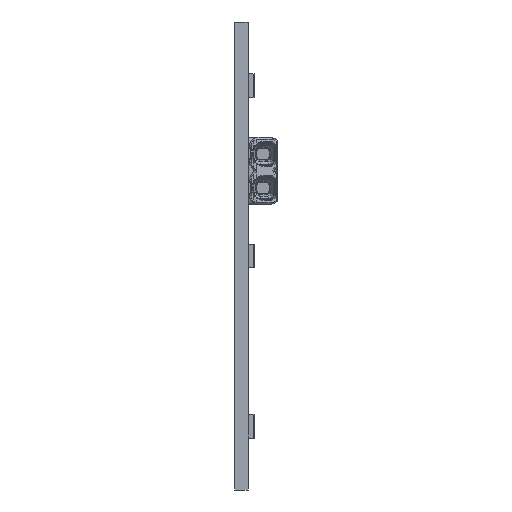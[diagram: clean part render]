
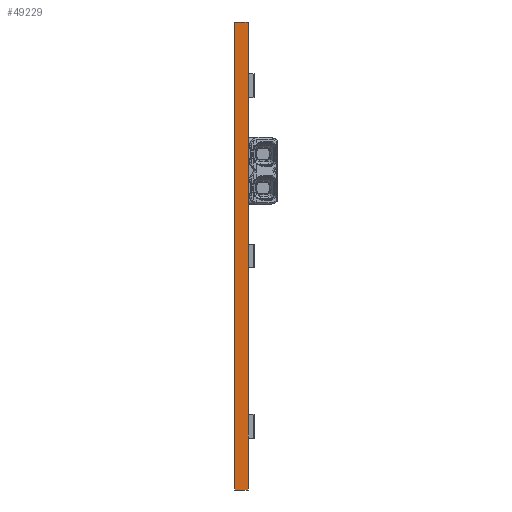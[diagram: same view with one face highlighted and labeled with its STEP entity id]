
A CAD part, left-side view. The second image highlights one B-rep face of the part: STEP entity #49229.
In plain terms, the highlighted planar face has unit normal (-1, 0, 0).
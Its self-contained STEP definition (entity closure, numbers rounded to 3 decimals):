
#2798=ORIENTED_EDGE('',*,*,#12766,.F.);
#2799=ORIENTED_EDGE('',*,*,#13097,.F.);
#2800=ORIENTED_EDGE('',*,*,#13090,.T.);
#2801=ORIENTED_EDGE('',*,*,#13117,.T.);
#12766=EDGE_CURVE('',#18036,#18037,#21414,.T.);
#13090=EDGE_CURVE('',#18296,#18297,#21522,.T.);
#13097=EDGE_CURVE('',#18296,#18036,#21529,.T.);
#13117=EDGE_CURVE('',#18297,#18037,#21549,.T.);
#18036=VERTEX_POINT('',#63168);
#18037=VERTEX_POINT('',#63169);
#18296=VERTEX_POINT('',#64259);
#18297=VERTEX_POINT('',#64260);
#21414=LINE('',#63167,#25382);
#21522=LINE('',#64258,#25490);
#21529=LINE('',#64271,#25497);
#21549=LINE('',#64302,#25517);
#25382=VECTOR('',#54007,1000.);
#25490=VECTOR('',#54381,1000.);
#25497=VECTOR('',#54392,1000.);
#25517=VECTOR('',#54434,1000.);
#29227=EDGE_LOOP('',(#2798,#2799,#2800,#2801));
#31453=FACE_BOUND('',#29227,.T.);
#33547=PLANE('',#51354);
#49229=ADVANCED_FACE('',(#31453),#33547,.T.);
#51354=AXIS2_PLACEMENT_3D('',#64303,#54435,#54436);
#54007=DIRECTION('',(0.,0.,-1.));
#54381=DIRECTION('',(0.,0.,-1.));
#54392=DIRECTION('',(0.,-1.,0.));
#54434=DIRECTION('',(0.,-1.,0.));
#54435=DIRECTION('',(-1.,0.,0.));
#54436=DIRECTION('',(0.,0.,1.));
#63167=CARTESIAN_POINT('',(-282.8,0.,27.5));
#63168=CARTESIAN_POINT('',(-282.8,0.,27.5));
#63169=CARTESIAN_POINT('',(-282.8,0.,-27.5));
#64258=CARTESIAN_POINT('',(-282.8,1.6,27.5));
#64259=CARTESIAN_POINT('',(-282.8,1.6,27.5));
#64260=CARTESIAN_POINT('',(-282.8,1.6,-27.5));
#64271=CARTESIAN_POINT('',(-282.8,1.6,27.5));
#64302=CARTESIAN_POINT('',(-282.8,1.6,-27.5));
#64303=CARTESIAN_POINT('',(-282.8,1.6,27.5));
